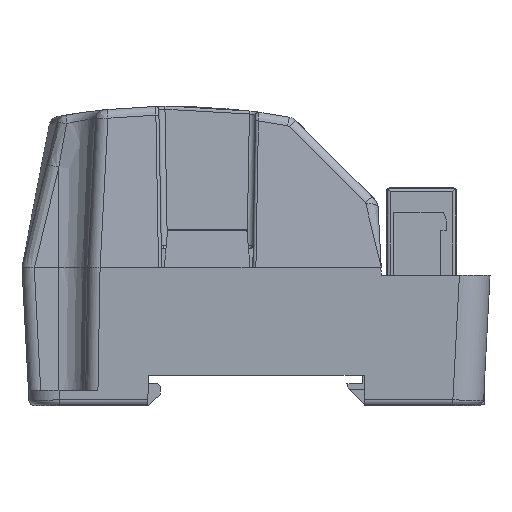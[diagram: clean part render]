
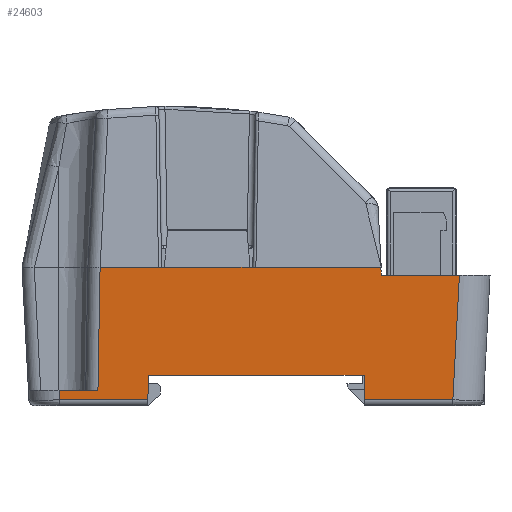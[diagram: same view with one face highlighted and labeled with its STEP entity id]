
A CAD part, left-side view. The second image highlights one B-rep face of the part: STEP entity #24603.
In plain terms, the highlighted planar face has unit normal (-0.999, 0, -0.052).
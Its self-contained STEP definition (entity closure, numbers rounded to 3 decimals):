
#262 = LINE ( 'NONE', #25103, #1209 ) ;
#406 = DIRECTION ( 'NONE',  ( 0.052, -0.017, -0.998 ) ) ;
#679 = VECTOR ( 'NONE', #6976, 1000. ) ;
#686 = EDGE_CURVE ( 'NONE', #12482, #15872, #8121, .T. ) ;
#884 = LINE ( 'NONE', #16324, #3032 ) ;
#1209 = VECTOR ( 'NONE', #9352, 1000. ) ;
#1785 = CARTESIAN_POINT ( 'NONE',  ( -82.244, 15.923, 22.6 ) ) ;
#1812 = ORIENTED_EDGE ( 'NONE', *, *, #8069, .T. ) ;
#2718 = CARTESIAN_POINT ( 'NONE',  ( -81.322, -17.7, 5. ) ) ;
#2915 = VECTOR ( 'NONE', #9881, 1000. ) ;
#3032 = VECTOR ( 'NONE', #5288, 1000. ) ;
#3352 = CARTESIAN_POINT ( 'NONE',  ( -82.176, -20.424, 21.3 ) ) ;
#3421 = CARTESIAN_POINT ( 'NONE',  ( -81.11, 17.683, 0.948 ) ) ;
#3570 = EDGE_CURVE ( 'NONE', #10754, #21010, #17040, .T. ) ;
#3774 = LINE ( 'NONE', #26004, #6798 ) ;
#4107 = CARTESIAN_POINT ( 'NONE',  ( -82.244, -20.356, 22.6 ) ) ;
#4150 = LINE ( 'NONE', #15035, #15656 ) ;
#4164 = VECTOR ( 'NONE', #20654, 1000. ) ;
#4224 = DIRECTION ( 'NONE',  ( -0.052, 0., 0.999 ) ) ;
#4271 = CARTESIAN_POINT ( 'NONE',  ( -82.244, 37.06, 22.6 ) ) ;
#4342 = LINE ( 'NONE', #9330, #4164 ) ;
#4352 = CARTESIAN_POINT ( 'NONE',  ( -82.244, 25.492, 22.6 ) ) ;
#4958 = CARTESIAN_POINT ( 'NONE',  ( -82.244, 15., 22.6 ) ) ;
#5288 = DIRECTION ( 'NONE',  ( -0.052, 0.052, 0.997 ) ) ;
#5875 = DIRECTION ( 'NONE',  ( 0., 1., 0. ) ) ;
#5991 = VERTEX_POINT ( 'NONE', #19988 ) ;
#6047 = CARTESIAN_POINT ( 'NONE',  ( -82.244, 37.06, 22.6 ) ) ;
#6498 = VERTEX_POINT ( 'NONE', #16135 ) ;
#6628 = VECTOR ( 'NONE', #22440, 1000. ) ;
#6710 = CARTESIAN_POINT ( 'NONE',  ( -81.11, 17.683, 0.948 ) ) ;
#6735 = DIRECTION ( 'NONE',  ( -0.999, 0., -0.052 ) ) ;
#6798 = VECTOR ( 'NONE', #12741, 1000. ) ;
#6824 = LINE ( 'NONE', #13281, #18895 ) ;
#6912 = CARTESIAN_POINT ( 'NONE',  ( -81.11, 37.06, 0.948 ) ) ;
#6976 = DIRECTION ( 'NONE',  ( 0., 1., 0. ) ) ;
#7039 = CARTESIAN_POINT ( 'NONE',  ( -81.191, 32.198, 2.5 ) ) ;
#7264 = DIRECTION ( 'NONE',  ( 0., 1., 0. ) ) ;
#7266 = EDGE_CURVE ( 'NONE', #27121, #23269, #884, .T. ) ;
#7356 = EDGE_CURVE ( 'NONE', #9663, #19477, #22997, .T. ) ;
#7452 = VERTEX_POINT ( 'NONE', #27849 ) ;
#7548 = ORIENTED_EDGE ( 'NONE', *, *, #23878, .T. ) ;
#8069 = EDGE_CURVE ( 'NONE', #6498, #25225, #24699, .T. ) ;
#8100 = CARTESIAN_POINT ( 'NONE',  ( -82.244, 0.077, 22.6 ) ) ;
#8121 = LINE ( 'NONE', #16533, #9845 ) ;
#8241 = LINE ( 'NONE', #6047, #2915 ) ;
#8263 = ORIENTED_EDGE ( 'NONE', *, *, #25742, .T. ) ;
#8393 = EDGE_LOOP ( 'NONE', ( #22717, #7548, #18734, #11977, #10744, #23034, #11473, #14652, #11970, #12009, #20670, #26537, #1812, #8263, #14329, #27193 ) ) ;
#8404 = DIRECTION ( 'NONE',  ( 0., 1., 0. ) ) ;
#9308 = CARTESIAN_POINT ( 'NONE',  ( -82.244, 37.06, 22.6 ) ) ;
#9330 = CARTESIAN_POINT ( 'NONE',  ( -82.244, 37.06, 22.6 ) ) ;
#9352 = DIRECTION ( 'NONE',  ( -0.052, -0.052, 0.997 ) ) ;
#9663 = VERTEX_POINT ( 'NONE', #19345 ) ;
#9845 = VECTOR ( 'NONE', #9899, 1000. ) ;
#9881 = DIRECTION ( 'NONE',  ( 0., 1., 0. ) ) ;
#9888 = LINE ( 'NONE', #9308, #13273 ) ;
#9899 = DIRECTION ( 'NONE',  ( 0., -1., 0. ) ) ;
#10744 = ORIENTED_EDGE ( 'NONE', *, *, #21658, .T. ) ;
#10754 = VERTEX_POINT ( 'NONE', #1785 ) ;
#11473 = ORIENTED_EDGE ( 'NONE', *, *, #11905, .T. ) ;
#11905 = EDGE_CURVE ( 'NONE', #5991, #22567, #8241, .T. ) ;
#11970 = ORIENTED_EDGE ( 'NONE', *, *, #3570, .T. ) ;
#11977 = ORIENTED_EDGE ( 'NONE', *, *, #7266, .T. ) ;
#12009 = ORIENTED_EDGE ( 'NONE', *, *, #25724, .T. ) ;
#12029 = EDGE_CURVE ( 'NONE', #22567, #10754, #17806, .T. ) ;
#12482 = VERTEX_POINT ( 'NONE', #15124 ) ;
#12676 = EDGE_CURVE ( 'NONE', #7452, #23408, #6824, .T. ) ;
#12741 = DIRECTION ( 'NONE',  ( -0.052, 0.052, 0.997 ) ) ;
#13273 = VECTOR ( 'NONE', #7264, 1000. ) ;
#13281 = CARTESIAN_POINT ( 'NONE',  ( -81.191, 37.06, 2.5 ) ) ;
#13322 = DIRECTION ( 'NONE',  ( 0.052, 0.017, -0.998 ) ) ;
#13376 = VECTOR ( 'NONE', #18230, 1000. ) ;
#14329 = ORIENTED_EDGE ( 'NONE', *, *, #7356, .F. ) ;
#14652 = ORIENTED_EDGE ( 'NONE', *, *, #12029, .T. ) ;
#15035 = CARTESIAN_POINT ( 'NONE',  ( -82.176, 37.06, 21.3 ) ) ;
#15124 = CARTESIAN_POINT ( 'NONE',  ( -81.11, -17.683, 0.948 ) ) ;
#15174 = CARTESIAN_POINT ( 'NONE',  ( -81.11, -32.117, 0.948 ) ) ;
#15264 = PLANE ( 'NONE',  #28785 ) ;
#15647 = VECTOR ( 'NONE', #24565, 1000. ) ;
#15656 = VECTOR ( 'NONE', #8404, 1000. ) ;
#15872 = VERTEX_POINT ( 'NONE', #15174 ) ;
#16135 = CARTESIAN_POINT ( 'NONE',  ( -81.11, 32.117, 0.948 ) ) ;
#16324 = CARTESIAN_POINT ( 'NONE',  ( -82.176, -20.424, 21.3 ) ) ;
#16533 = CARTESIAN_POINT ( 'NONE',  ( -81.11, 37.06, 0.948 ) ) ;
#17040 = LINE ( 'NONE', #25733, #22572 ) ;
#17806 = LINE ( 'NONE', #4271, #15647 ) ;
#17839 = EDGE_CURVE ( 'NONE', #9663, #12482, #27306, .T. ) ;
#17844 = DIRECTION ( 'NONE',  ( 0., 1., 0. ) ) ;
#18230 = DIRECTION ( 'NONE',  ( 0., -1., 0. ) ) ;
#18734 = ORIENTED_EDGE ( 'NONE', *, *, #24348, .T. ) ;
#18895 = VECTOR ( 'NONE', #17844, 1000. ) ;
#19345 = CARTESIAN_POINT ( 'NONE',  ( -81.322, -17.613, 5. ) ) ;
#19477 = VERTEX_POINT ( 'NONE', #23776 ) ;
#19988 = CARTESIAN_POINT ( 'NONE',  ( -82.244, 1., 22.6 ) ) ;
#20654 = DIRECTION ( 'NONE',  ( 0., 1., 0. ) ) ;
#20670 = ORIENTED_EDGE ( 'NONE', *, *, #12676, .T. ) ;
#21010 = VERTEX_POINT ( 'NONE', #25813 ) ;
#21658 = EDGE_CURVE ( 'NONE', #23269, #25347, #9888, .T. ) ;
#22283 = VERTEX_POINT ( 'NONE', #27482 ) ;
#22440 = DIRECTION ( 'NONE',  ( -0.052, -0.017, 0.998 ) ) ;
#22567 = VERTEX_POINT ( 'NONE', #4958 ) ;
#22572 = VECTOR ( 'NONE', #5875, 1000. ) ;
#22717 = ORIENTED_EDGE ( 'NONE', *, *, #686, .T. ) ;
#22997 = LINE ( 'NONE', #2718, #679 ) ;
#23034 = ORIENTED_EDGE ( 'NONE', *, *, #28317, .T. ) ;
#23269 = VERTEX_POINT ( 'NONE', #4107 ) ;
#23408 = VERTEX_POINT ( 'NONE', #7039 ) ;
#23517 = EDGE_CURVE ( 'NONE', #6498, #23408, #3774, .T. ) ;
#23776 = CARTESIAN_POINT ( 'NONE',  ( -81.322, 17.613, 5. ) ) ;
#23878 = EDGE_CURVE ( 'NONE', #15872, #22283, #262, .T. ) ;
#24348 = EDGE_CURVE ( 'NONE', #22283, #27121, #4150, .T. ) ;
#24368 = CARTESIAN_POINT ( 'NONE',  ( -81.06, 37.06, 0. ) ) ;
#24489 = LINE ( 'NONE', #4352, #25903 ) ;
#24565 = DIRECTION ( 'NONE',  ( 0., 1., 0. ) ) ;
#24603 = ADVANCED_FACE ( 'NONE', ( #26874 ), #15264, .T. ) ;
#24699 = LINE ( 'NONE', #6912, #13376 ) ;
#25103 = CARTESIAN_POINT ( 'NONE',  ( -81.11, -32.117, 0.948 ) ) ;
#25225 = VERTEX_POINT ( 'NONE', #3421 ) ;
#25347 = VERTEX_POINT ( 'NONE', #8100 ) ;
#25724 = EDGE_CURVE ( 'NONE', #21010, #7452, #24489, .T. ) ;
#25733 = CARTESIAN_POINT ( 'NONE',  ( -82.244, 37.06, 22.6 ) ) ;
#25742 = EDGE_CURVE ( 'NONE', #25225, #19477, #26854, .T. ) ;
#25813 = CARTESIAN_POINT ( 'NONE',  ( -82.245, 25.493, 22.6 ) ) ;
#25903 = VECTOR ( 'NONE', #13322, 1000. ) ;
#26004 = CARTESIAN_POINT ( 'NONE',  ( -81.074, 32.08, 0.26 ) ) ;
#26537 = ORIENTED_EDGE ( 'NONE', *, *, #23517, .F. ) ;
#26854 = LINE ( 'NONE', #6710, #6628 ) ;
#26869 = CARTESIAN_POINT ( 'NONE',  ( -81.322, -17.613, 5. ) ) ;
#26874 = FACE_OUTER_BOUND ( 'NONE', #8393, .T. ) ;
#27121 = VERTEX_POINT ( 'NONE', #3352 ) ;
#27193 = ORIENTED_EDGE ( 'NONE', *, *, #17839, .T. ) ;
#27306 = LINE ( 'NONE', #26869, #27364 ) ;
#27364 = VECTOR ( 'NONE', #406, 1000. ) ;
#27482 = CARTESIAN_POINT ( 'NONE',  ( -82.176, -33.183, 21.3 ) ) ;
#27849 = CARTESIAN_POINT ( 'NONE',  ( -81.191, 25.843, 2.5 ) ) ;
#28317 = EDGE_CURVE ( 'NONE', #25347, #5991, #4342, .T. ) ;
#28785 = AXIS2_PLACEMENT_3D ( 'NONE', #24368, #6735, #4224 ) ;
